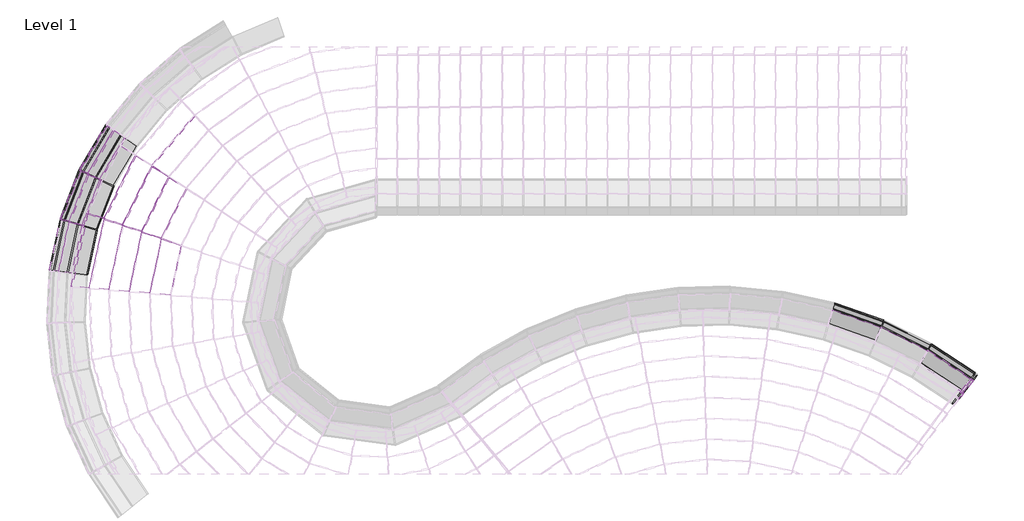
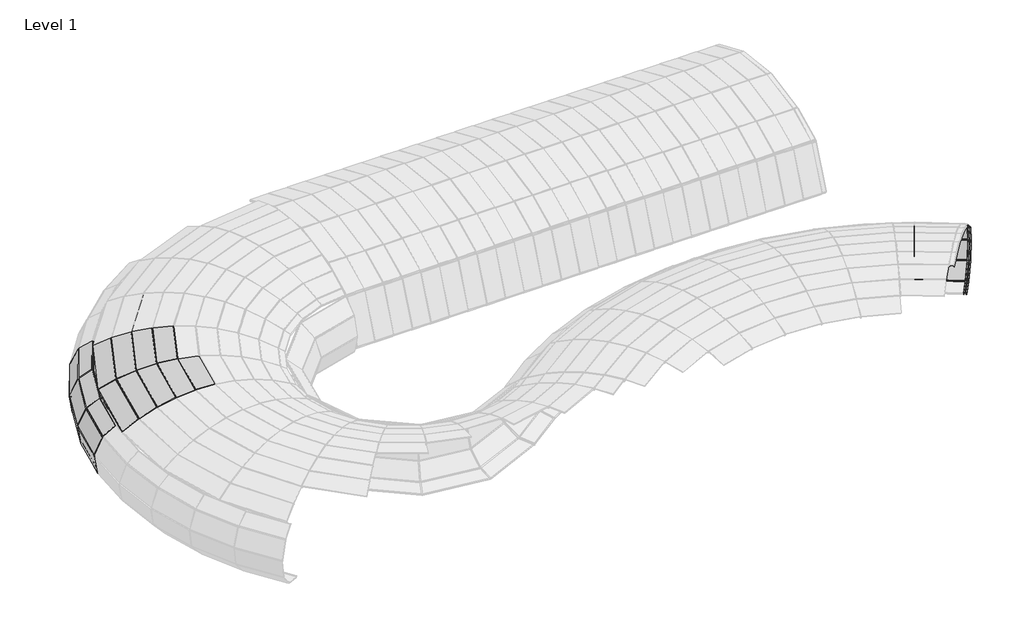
# One storey, part 13 of 23: 67 members, 33 plates.
"""IFC4 building model written with IfcOpenShell, lengths in millimetres."""

from ifc_helpers import new_model, si_unit, origin, place, context, project, spatial, transform, mapped, element, save
from components import member_d6b8231b, member_8c9da58c, member_391bee44, member_01ebdf2a, member_0cd36c09, member_e4cc2466, member_9f5a8508, member_b171f0c8, member_040a25f9, member_07455e61, member_515abc7c, member_e80ec650, member_68ba998a, member_6834bcaf, member_d79d2994, member_03fc4885, member_b79de73f, member_10df8ec0, member_13f17b54, member_c7dbaffb, member_95f517b8, member_6c4aaba8, member_0ea93e7c, member_01d9c279, member_12c77cbe, member_af15374c, member_9c203333, member_86c07ba8, member_0e8a41c0, member_f532ae18, member_ff5bcfe9, member_5080b2ef, member_e0eebeff, system_panel_glazed_e5225984, system_panel_glazed_94c3709e, system_panel_glazed_130e820a, system_panel_glazed_21f41b6b, system_panel_glazed_ba7116ad, system_panel_glazed_a6d149b5, system_panel_glazed_185472ef, system_panel_glazed_d90a1b68, system_panel_glazed_7d733e69, system_panel_glazed_1f33159c, system_panel_glazed_020edd5b, system_panel_glazed_973a940c, system_panel_glazed_7e9fb579, system_panel_glazed_aab04364, system_panel_glazed_9094d4f4

model = new_model("IFC4")

# Units and contexts
model_context = context("Model", 3, world=origin())
ifc_project = project(units=[si_unit("LENGTHUNIT", "METRE", prefix="MILLI")], contexts=[model_context])

# Site, building, storey
site = spatial("IfcSite", under=ifc_project)
building = spatial("IfcBuilding", under=site)
storey = spatial("IfcBuildingStorey", under=building, Name="Level 1", Elevation=0.0)

# Members
placement = place(None, origin())
member_shape = member_d6b8231b(model_context)
element("IfcMember", 1, ObjectType="Rectangular Mullion : 1\" Square", at=placement, inside=storey, context=model_context, shape_type="MappedRepresentation", body=[
    mapped(member_shape, transform((-18019.9786679, 1065.5748234, 0.0), x_axis=(-0.2851545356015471, -0.9584815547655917, 0.0), y_axis=(-0.26866015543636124, 0.07992815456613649, -0.9599131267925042), z_axis=(0.9200590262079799, -0.27372358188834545, -0.2802976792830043))),
])
element("IfcMember", 2, ObjectType="Rectangular Mullion : 1\" Square", at=placement, inside=storey, context=model_context, shape_type="MappedRepresentation", body=[
    mapped(member_shape, transform((-17531.4233882, 2327.9167311, 0.0), x_axis=(-0.4343992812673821, -0.9007204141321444, 0.0), y_axis=(-0.25246984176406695, 0.12176111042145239, -0.9599131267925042), z_axis=(0.864613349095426, -0.4169855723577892, -0.2802976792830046))),
])
member_2_shape = member_8c9da58c(model_context)
element("IfcMember", 3, ObjectType="Rectangular Mullion : 1\" Square", at=placement, inside=storey, context=model_context, shape_type="MappedRepresentation", body=[
    mapped(member_2_shape, transform((-18058.4916858, 2582.1111361, 170.8694653), x_axis=(-0.43439928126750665, -0.9007204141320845, 0.0), y_axis=(-0.6780665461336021, 0.3270178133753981, -0.6582439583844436), z_axis=(0.5928937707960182, -0.2859407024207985, -0.7528046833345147))),
])
element("IfcMember", 4, ObjectType="Rectangular Mullion : 1\" Square", at=placement, inside=storey, context=model_context, shape_type="MappedRepresentation", body=[
    mapped(member_2_shape, transform((-18419.9197285, 2756.4205883, 629.7792003), x_axis=(-0.434399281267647, -0.9007204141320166, 0.0), y_axis=(-0.8905692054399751, 0.42950355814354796, -0.14971033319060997), z_axis=(0.13484715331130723, -0.06503406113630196, -0.9887299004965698))),
])
element("IfcMember", 5, ObjectType="Rectangular Mullion : 1\" Square", at=placement, inside=storey, context=model_context, shape_type="MappedRepresentation", body=[
    mapped(member_2_shape, transform((-18580.8466503, 1232.4367189, 170.8694653), x_axis=(-0.2851545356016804, -0.9584815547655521, 0.0), y_axis=(-0.7215494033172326, 0.21466566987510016, -0.6582439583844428), z_axis=(0.6309146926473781, -0.18770125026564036, -0.7528046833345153))),
])
element("IfcMember", 6, ObjectType="Rectangular Mullion : 1\" Square", at=placement, inside=storey, context=model_context, shape_type="MappedRepresentation", body=[
    mapped(member_2_shape, transform((-18965.4522469, 1346.859401, 629.7792003), x_axis=(-0.2851545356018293, -0.9584815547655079, 0.0), y_axis=(-0.9476793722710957, 0.28194081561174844, -0.14971033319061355), z_axis=(0.14349459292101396, -0.04269058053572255, -0.9887299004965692))),
])
member_3_shape = member_391bee44(model_context)
element("IfcMember", 7, ObjectType="Rectangular Mullion : 1\" Square", at=placement, inside=storey, context=model_context, shape_type="MappedRepresentation", body=[
    mapped(member_3_shape, transform((-18502.1225531, 2796.0653519, 1232.5089476), x_axis=(-0.43439928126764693, -0.9007204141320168, 0.0), y_axis=(-0.8231952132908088, 0.39701044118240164, 0.40587233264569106), z_axis=(-0.3655774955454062, 0.1763106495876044, -0.9139297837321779))),
])
element("IfcMember", 8, ObjectType="Rectangular Mullion : 1\" Square", at=placement, inside=storey, context=model_context, shape_type="MappedRepresentation", body=[
    mapped(member_3_shape, transform((-19052.9265508, 1372.8835789, 1232.5089476), x_axis=(-0.2851545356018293, -0.9584815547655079, 0.0), y_axis=(-0.8759848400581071, 0.26061122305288, 0.40587233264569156), z_axis=(-0.3890211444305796, 0.11573633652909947, -0.9139297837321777))),
])
member_4_shape = member_01ebdf2a(model_context)
element("IfcMember", 9, ObjectType="Rectangular Mullion : 1\" Square", at=placement, inside=storey, context=model_context, shape_type="MappedRepresentation", body=[
    mapped(member_4_shape, transform((-18279.2665119, 2688.5863799, 1789.6405438), x_axis=(-0.4343992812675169, -0.9007204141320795, 0.0), y_axis=(-0.5367032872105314, 0.258841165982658, 0.8030883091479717), z_axis=(-0.7233580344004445, 0.3488609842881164, -0.5958600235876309))),
])
element("IfcMember", 10, ObjectType="Rectangular Mullion : 1\" Square", at=placement, inside=storey, context=model_context, shape_type="MappedRepresentation", body=[
    mapped(member_4_shape, transform((-18815.7792611, 1302.3307082, 1789.6405438), x_axis=(-0.28515453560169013, -0.9584815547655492, 0.0), y_axis=(-0.5711208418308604, 0.16991218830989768, 0.8030883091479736), z_axis=(-0.76974533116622, 0.2290042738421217, -0.5958600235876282))),
])
member_5_shape = member_0cd36c09(model_context)
element("IfcMember", 11, ObjectType="Rectangular Mullion : 1\" Square", at=placement, inside=storey, context=model_context, shape_type="MappedRepresentation", body=[
    mapped(member_5_shape, transform((-16425.6154359, 2926.3073821, 2605.3528615), x_axis=(-0.5485388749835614, -0.83612505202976, 0.0), y_axis=(-0.2167452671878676, 0.14219548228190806, 0.965816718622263), z_axis=(-0.8075435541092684, 0.5297880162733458, -0.2592258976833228))),
])
element("IfcMember", 12, ObjectType="Rectangular Mullion : 1\" Square", at=placement, inside=storey, context=model_context, shape_type="MappedRepresentation", body=[
    mapped(member_5_shape, transform((-17808.6545746, 1385.2734297, 2378.3537392), x_axis=(-0.32694640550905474, -0.9450428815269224, 0.0), y_axis=(-0.35190929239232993, 0.12174630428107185, 0.9280828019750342), z_axis=(-0.8770780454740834, 0.3034333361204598, -0.37237388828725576))),
])
element("IfcMember", 13, ObjectType="Rectangular Mullion : 1\" Square", at=placement, inside=storey, context=model_context, shape_type="MappedRepresentation", body=[
    mapped(member_5_shape, transform((-17273.9877981, 1200.300468, 2605.3528615), x_axis=(-0.32694640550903, -0.9450428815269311, 0.0), y_axis=(-0.2449795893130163, 0.08475297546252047, 0.9658167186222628), z_axis=(-0.9127382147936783, 0.31577030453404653, -0.2592258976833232))),
])
element("IfcMember", 14, ObjectType="Rectangular Mullion : 1\" Square", at=placement, inside=storey, context=model_context, shape_type="MappedRepresentation", body=[
    mapped(member_5_shape, transform((-16717.5825824, 1007.8068903, 2763.3769688), x_axis=(-0.32694640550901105, -0.9450428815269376, 0.0), y_axis=(-0.13456472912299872, 0.046553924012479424, 0.9898106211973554), z_axis=(-0.9354134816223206, 0.3236150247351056, -0.1423900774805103))),
])
element("IfcMember", 15, ObjectType="Rectangular Mullion : 1\" Square", at=placement, inside=storey, context=model_context, shape_type="MappedRepresentation", body=[
    mapped(member_5_shape, transform((-16147.354524, 810.5311712, 2850.17796), x_axis=(-0.32694640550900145, -0.9450428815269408, 0.0), y_axis=(-0.02223550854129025, 0.007692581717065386, 0.9997231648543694), z_axis=(-0.9447812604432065, 0.3268558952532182, -0.023528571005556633))),
])
member_6_shape = member_e4cc2466(model_context)
element("IfcMember", 16, ObjectType="Rectangular Mullion : 1\" Square", at=placement, inside=storey, context=model_context, shape_type="MappedRepresentation", body=[
    mapped(member_6_shape, transform((-18313.9765733, 1560.0942916, 2085.6089632), x_axis=(-0.32694640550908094, -0.9450428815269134, 0.0), y_axis=(-0.45383262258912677, 0.15700763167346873, 0.8771456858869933), z_axis=(-0.8289402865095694, 0.286779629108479, -0.4802243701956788))),
])
member_7_shape = member_9f5a8508(model_context)
element("IfcMember", 17, ObjectType="Rectangular Mullion : 1\" Square", at=placement, inside=storey, context=model_context, shape_type="MappedRepresentation", body=[
    mapped(member_7_shape, transform((7104.8271697, -3677.2258429, 2085.6089632), x_axis=(0.5145511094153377, 0.6881011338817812, -0.5116189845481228), y_axis=(0.3063900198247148, 0.4097305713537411, 0.8592124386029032), z_axis=(0.8008509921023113, -0.5988636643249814, 0.0))),
])
element("IfcMember", 18, ObjectType="Rectangular Mullion : 1\" Square", at=placement, inside=storey, context=model_context, shape_type="MappedRepresentation", body=[
    mapped(member_2_shape, transform((4736.9010134, -1768.9813096, 1696.6281859), x_axis=(0.9208466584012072, -0.3899249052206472, 0.0), y_axis=(0.37127065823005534, 0.8767927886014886, 0.3056018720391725), z_axis=(-0.11916178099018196, -0.28141246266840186, 0.9521593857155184))),
])
element("IfcMember", 19, ObjectType="Rectangular Mullion : 1\" Square", at=placement, inside=storey, context=model_context, shape_type="MappedRepresentation", body=[
    mapped(member_2_shape, transform((4809.5420351, -1597.4322723, 1116.1918244), x_axis=(0.9208466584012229, -0.3899249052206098, 0.0), y_axis=(0.377055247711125, 0.8904536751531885, -0.2547971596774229), z_axis=(0.09935175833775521, 0.23462911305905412, 0.9669945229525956))),
])
element("IfcMember", 20, ObjectType="Rectangular Mullion : 1\" Square", at=placement, inside=storey, context=model_context, shape_type="MappedRepresentation", body=[
    mapped(member_2_shape, transform((6083.771243, -2438.4441663, 1696.6281859), x_axis=(0.8668133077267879, -0.49863282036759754, 0.0), y_axis=(0.47477791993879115, 0.8253444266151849, 0.3056018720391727), z_axis=(-0.15238312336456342, -0.2648997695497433, 0.9521593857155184))),
])
element("IfcMember", 21, ObjectType="Rectangular Mullion : 1\" Square", at=placement, inside=storey, context=model_context, shape_type="MappedRepresentation", body=[
    mapped(member_2_shape, transform((6176.663995, -2276.9612668, 1116.1918244), x_axis=(0.8668133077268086, -0.4986328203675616, 0.0), y_axis=(0.4821752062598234, 0.8382037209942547, -0.2547971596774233), z_axis=(0.12705022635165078, 0.22086156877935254, 0.9669945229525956))),
])
element("IfcMember", 22, ObjectType="Rectangular Mullion : 1\" Square", at=placement, inside=storey, context=model_context, shape_type="MappedRepresentation", body=[
    mapped(member_2_shape, transform((7339.5967163, -3266.1774039, 1696.6281859), x_axis=(0.8000057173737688, -0.5999923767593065, 0.0), y_axis=(0.5712883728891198, 0.761732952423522, 0.30560187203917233), z_axis=(-0.1833587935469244, -0.2444832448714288, 0.9521593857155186))),
])
element("IfcMember", 23, ObjectType="Rectangular Mullion : 1\" Square", at=placement, inside=storey, context=model_context, shape_type="MappedRepresentation", body=[
    mapped(member_2_shape, transform((7451.3722368, -3117.1404178, 1116.1918244), x_axis=(0.8000057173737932, -0.599992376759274, 0.0), y_axis=(0.5801893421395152, 0.7736011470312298, -0.25479715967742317), z_axis=(0.15287635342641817, 0.2038391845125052, 0.9669945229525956))),
])
element("IfcMember", 24, ObjectType="Rectangular Mullion : 1\" Square", at=placement, inside=storey, context=model_context, shape_type="MappedRepresentation", body=[
    mapped(member_3_shape, transform((4748.9772033, -1740.4621796, 526.7119632), x_axis=(0.9208466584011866, -0.38992490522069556, 0.0), y_axis=(0.26434375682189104, 0.6242742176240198, -0.7351218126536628), z_axis=(0.28664230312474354, 0.676934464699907, 0.6779350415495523))),
])
element("IfcMember", 25, ObjectType="Rectangular Mullion : 1\" Square", at=placement, inside=storey, context=model_context, shape_type="MappedRepresentation", body=[
    mapped(member_3_shape, transform((6099.214177, -2411.5984791, 526.7119632), x_axis=(0.8668133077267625, -0.49863282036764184, 0.0), y_axis=(0.33804066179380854, 0.587643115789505, -0.7351218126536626), z_axis=(0.3665558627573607, 0.6372133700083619, 0.6779350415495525))),
])
element("IfcMember", 26, ObjectType="Rectangular Mullion : 1\" Square", at=placement, inside=storey, context=model_context, shape_type="MappedRepresentation", body=[
    mapped(member_3_shape, transform((7358.1788118, -3241.4007847, 526.7119632), x_axis=(0.8000057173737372, -0.5999923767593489, 0.0), y_axis=(0.4067558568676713, 0.5423519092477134, -0.7351218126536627), z_axis=(0.44106748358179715, 0.5881016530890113, 0.6779350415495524))),
])
element("IfcMember", 27, ObjectType="Rectangular Mullion : 1\" Square", at=placement, inside=storey, context=model_context, shape_type="MappedRepresentation", body=[
    mapped(member_4_shape, transform((7089.3040738, -3599.9075524, 113.4427618), x_axis=(0.800005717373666, -0.5999923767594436, 0.0), y_axis=(0.13703181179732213, 0.18271270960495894, -0.9735698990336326), z_axis=(0.5841345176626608, 0.7788614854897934, 0.2283892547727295))),
])
element("IfcMember", 28, ObjectType="Rectangular Mullion : 1\" Square", at=placement, inside=storey, context=model_context, shape_type="MappedRepresentation", body=[
    mapped(member_shape, transform((7057.9796251, -3641.6743132, 2085.6089632), x_axis=(0.8000057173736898, -0.5999923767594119, 0.0), y_axis=(0.38285023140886, 0.5104771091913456, 0.7699602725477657), z_axis=(-0.4619702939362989, -0.6159726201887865, 0.6380918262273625))),
])
member_8_shape = member_b171f0c8(model_context)
element("IfcMember", 29, ObjectType="Rectangular Mullion : 1\" Square", at=placement, inside=storey, context=model_context, shape_type="MappedRepresentation", body=[
    mapped(member_8_shape, transform((6165.2913851, -2271.3085025, 1116.1918244), x_axis=(0.011808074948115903, 0.023756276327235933, -0.9996480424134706), y_axis=(0.4449428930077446, 0.8951659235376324, 0.026529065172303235), z_axis=(0.8954810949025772, -0.44509954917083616, 0.0))),
])
element("IfcMember", 30, ObjectType="Rectangular Mullion : 1\" Square", at=placement, inside=storey, context=model_context, shape_type="MappedRepresentation", body=[
    mapped(member_8_shape, transform((7440.7683843, -3110.151261, 1116.1918244), x_axis=(0.014599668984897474, 0.02215041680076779, -0.9996480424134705), y_axis=(0.5501336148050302, 0.834655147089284, 0.02652906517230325), z_axis=(0.8349490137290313, -0.5503273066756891, 0.0))),
])
element("IfcMember", 31, ObjectType="Rectangular Mullion : 1\" Square", at=placement, inside=storey, context=model_context, shape_type="MappedRepresentation", body=[
    mapped(member_8_shape, transform((4797.5682661, -1593.1992054, 1116.1918244), x_axis=(0.008842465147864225, 0.025012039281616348, -0.9996480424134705), y_axis=(0.33319504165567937, 0.9424846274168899, 0.02652906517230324), z_axis=(0.9428164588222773, -0.33331235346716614, 0.0))),
])
member_9_shape = member_040a25f9(model_context)
element("IfcMember", 32, ObjectType="Rectangular Mullion : 1\" Square", at=placement, inside=storey, context=model_context, shape_type="MappedRepresentation", body=[
    mapped(member_9_shape, transform((7501.9908279, -3155.3837101, 1116.1918244), x_axis=(0.015953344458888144, 0.021115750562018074, -0.9996497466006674), y_axis=(0.6026032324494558, 0.7976020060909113, 0.026464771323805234), z_axis=(0.7978814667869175, -0.6028143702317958, 0.0))),
])
member_10_shape = member_07455e61(model_context)
element("IfcMember", 33, ObjectType="Rectangular Mullion : 1\" Square", at=placement, inside=storey, context=model_context, shape_type="MappedRepresentation", body=[
    mapped(member_10_shape, transform((4737.0034342, -1736.2291128, 526.7119632), x_axis=(-0.17219439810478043, -0.48707379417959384, -0.8562173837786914), y_axis=(0.28538783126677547, 0.8072558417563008, -0.516615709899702), z_axis=(0.9428164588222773, -0.33331235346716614, 0.0))),
])
element("IfcMember", 34, ObjectType="Rectangular Mullion : 1\" Square", at=placement, inside=storey, context=model_context, shape_type="MappedRepresentation", body=[
    mapped(member_10_shape, transform((6087.8415671, -2405.9457149, 526.7119632), x_axis=(-0.2299454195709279, -0.4626196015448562, -0.8562173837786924), y_axis=(0.38110197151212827, 0.7667264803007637, -0.5166157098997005), z_axis=(0.8954810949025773, -0.44509954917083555, 0.0))),
])
element("IfcMember", 35, ObjectType="Rectangular Mullion : 1\" Square", at=placement, inside=storey, context=model_context, shape_type="MappedRepresentation", body=[
    mapped(member_10_shape, transform((7347.5749593, -3234.4116279, 526.7119632), x_axis=(-0.28430773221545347, -0.43134777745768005, -0.8562173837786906), y_axis=(0.4711998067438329, 0.7148978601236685, -0.5166157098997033), z_axis=(0.8349490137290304, -0.5503273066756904, 0.0))),
])
member_11_shape = member_515abc7c(model_context)
element("IfcMember", 36, ObjectType="Rectangular Mullion : 1\" Square", at=placement, inside=storey, context=model_context, shape_type="MappedRepresentation", body=[
    mapped(member_11_shape, transform((7328.9928638, -3259.1882471, 1696.6281859), x_axis=(0.308871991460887, 0.46861633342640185, -0.8276453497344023), y_axis=(0.45547583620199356, 0.6910416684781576, 0.5612514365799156), z_axis=(0.8349490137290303, -0.5503273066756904, 0.0))),
])
element("IfcMember", 37, ObjectType="Rectangular Mullion : 1\" Square", at=placement, inside=storey, context=model_context, shape_type="MappedRepresentation", body=[
    mapped(member_11_shape, transform((4724.9272444, -1764.7482427, 1696.6281859), x_axis=(0.18707203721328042, 0.5291570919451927, -0.8276453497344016), y_axis=(0.27586441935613, 0.7803176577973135, 0.5612514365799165), z_axis=(0.9428164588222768, -0.33331235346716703, 0.0))),
])
element("IfcMember", 38, ObjectType="Rectangular Mullion : 1\" Square", at=placement, inside=storey, context=model_context, shape_type="MappedRepresentation", body=[
    mapped(member_11_shape, transform((6072.3986331, -2432.7914021, 1696.6281859), x_axis=(0.2498127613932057, 0.5025900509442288, -0.8276453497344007), y_axis=(0.3683845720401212, 0.7411407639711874, 0.5612514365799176), z_axis=(0.895481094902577, -0.44509954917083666, 0.0))),
])
member_12_shape = member_e80ec650(model_context)
element("IfcMember", 39, ObjectType="Rectangular Mullion : 1\" Square", at=placement, inside=storey, context=model_context, shape_type="MappedRepresentation", body=[
    mapped(member_12_shape, transform((7389.1652625, -3303.6273676, 1696.6281859), x_axis=(0.33773694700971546, 0.4470265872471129, -0.8283121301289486), y_axis=(0.4993184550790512, 0.6608948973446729, 0.5602669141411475), z_axis=(0.797881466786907, -0.6028143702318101, 0.0))),
])
member_13_shape = member_68ba998a(model_context)
element("IfcMember", 40, ObjectType="Rectangular Mullion : 1\" Square", at=placement, inside=storey, context=model_context, shape_type="MappedRepresentation", body=[
    mapped(member_13_shape, transform((7407.9219225, -3278.9826351, 526.7119632), x_axis=(-0.3108447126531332, -0.4114321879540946, -0.8567958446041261), y_axis=(0.5164888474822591, 0.6836215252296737, -0.5156557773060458), z_axis=(0.7978814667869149, -0.6028143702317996, 0.0))),
])
member_14_shape = member_6834bcaf(model_context)
element("IfcMember", 41, ObjectType="Rectangular Mullion : 1\" Square", at=placement, inside=storey, context=model_context, shape_type="MappedRepresentation", body=[
    mapped(member_14_shape, transform((7078.7002213, -3592.9183956, 113.4427618), x_axis=(-0.4932424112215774, -0.7483405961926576, -0.44350679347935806), y_axis=(0.24407389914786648, 0.370305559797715, -0.8962710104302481), z_axis=(0.834949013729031, -0.5503273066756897, 0.0))),
])
member_15_shape = member_d79d2994(model_context)
element("IfcMember", 42, ObjectType="Rectangular Mullion : 1\" Square", at=placement, inside=storey, context=model_context, shape_type="MappedRepresentation", body=[
    mapped(member_15_shape, transform((7136.5213134, -3635.5810601, 113.4427618), x_axis=(-0.5399407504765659, -0.714662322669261, -0.4446591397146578), y_axis=(0.268046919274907, 0.3547852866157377, -0.8956998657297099), z_axis=(0.7978814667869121, -0.6028143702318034, 0.0))),
])
member_16_shape = member_03fc4885(model_context)
element("IfcMember", 43, ObjectType="Rectangular Mullion : 1\" Square", at=placement, inside=storey, context=model_context, shape_type="MappedRepresentation", body=[
    mapped(member_16_shape, transform((7409.4314517, -3318.9388526, 1696.6281859), x_axis=(0.7976821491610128, -0.603077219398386, 0.0010277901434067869), y_axis=(0.5739756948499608, 0.7597107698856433, 0.3056001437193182), z_axis=(-0.185081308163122, -0.24318185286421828, 0.9521593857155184))),
])
member_17_shape = member_b79de73f(model_context)
element("IfcMember", 44, ObjectType="Rectangular Mullion : 1\" Square", at=placement, inside=storey, context=model_context, shape_type="MappedRepresentation", body=[
    mapped(member_17_shape, transform((7522.2570172, -3170.6951951, 1116.1918244), x_axis=(0.797742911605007, -0.6029970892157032, -0.0008702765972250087), y_axis=(0.5829184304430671, 0.7715473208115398, -0.25479567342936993), z_axis=(0.1543125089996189, 0.20275414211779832, 0.9669945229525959))),
])
member_18_shape = member_10df8ec0(model_context)
element("IfcMember", 45, ObjectType="Rectangular Mullion : 1\" Square", at=placement, inside=storey, context=model_context, shape_type="MappedRepresentation", body=[
    mapped(member_18_shape, transform((7428.1881117, -3294.2941201, 526.7119632), x_axis=(0.7967281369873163, -0.6043353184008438, -0.0017603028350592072), y_axis=(0.40867036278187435, 0.5409136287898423, -0.7351197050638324), z_axis=(0.4452109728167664, 0.584971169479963, 0.6779350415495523))),
])
member_19_shape = member_13f17b54(model_context)
element("IfcMember", 46, ObjectType="Rectangular Mullion : 1\" Square", at=placement, inside=storey, context=model_context, shape_type="MappedRepresentation", body=[
    mapped(member_19_shape, transform((7156.7875027, -3650.8925451, 113.4427618), x_axis=(0.7958585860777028, -0.6054820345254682, -0.0007853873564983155), y_axis=(0.13767713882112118, 0.18222863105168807, -0.9735695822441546), z_axis=(0.5896220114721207, 0.7747155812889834, 0.22838925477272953))),
])
member_20_shape = member_c7dbaffb(model_context)
element("IfcMember", 47, ObjectType="Rectangular Mullion : 1\" Square", at=placement, inside=storey, context=model_context, shape_type="MappedRepresentation", body=[
    mapped(member_20_shape, transform((7068.1127197, -3649.3300557, 2085.6089632), x_axis=(-0.4641419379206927, -0.61433547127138, 0.6380941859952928), y_axis=(0.38465234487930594, 0.5091235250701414, 0.7699583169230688), z_axis=(-0.7978814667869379, 0.6028143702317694, 0.0))),
])
member_21_shape = member_95f517b8(model_context)
element("IfcMember", 48, ObjectType="Rectangular Mullion : 1\" Square", at=placement, inside=storey, context=model_context, shape_type="MappedRepresentation", body=[
    mapped(member_21_shape, transform((7125.1687849, -3692.43698, 2085.6089632), x_axis=(0.7966162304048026, -0.6044828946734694, 0.0017353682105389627), y_axis=(0.384652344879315, 0.5091235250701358, 0.7699583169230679), z_axis=(-0.46631014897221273, -0.6126937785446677, 0.6380918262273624))),
])
member_22_shape = member_6c4aaba8(model_context)
element("IfcMember", 49, ObjectType="Rectangular Mullion : 1\" Square", at=placement, inside=storey, context=model_context, shape_type="MappedRepresentation", body=[
    mapped(member_22_shape, transform((-17803.0523861, 1396.6710383, 2378.3537392), x_axis=(0.8127024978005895, -0.3994620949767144, 0.4241988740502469), y_axis=(-0.38069706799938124, 0.1871214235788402, 0.9055690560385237), z_axis=(-0.4411172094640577, -0.897449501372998, 0.0))),
])
member_23_shape = member_0ea93e7c(model_context)
element("IfcMember", 50, ObjectType="Rectangular Mullion : 1\" Square", at=placement, inside=storey, context=model_context, shape_type="MappedRepresentation", body=[
    mapped(member_23_shape, transform((-16711.9803938, 1019.204499, 2763.3769688), x_axis=(0.8794198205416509, -0.43225520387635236, 0.19943976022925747), y_axis=(-0.17898711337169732, 0.0879763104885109, 0.9799100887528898), z_axis=(-0.44111720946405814, -0.8974495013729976, 0.0))),
])
member_24_shape = member_01d9c279(model_context)
element("IfcMember", 51, ObjectType="Rectangular Mullion : 1\" Square", at=placement, inside=storey, context=model_context, shape_type="MappedRepresentation", body=[
    mapped(member_24_shape, transform((-16141.7523354, 821.9287799, 2850.17796), x_axis=(0.8944127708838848, -0.43962458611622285, 0.08219500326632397), y_axis=(-0.0737658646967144, 0.03625763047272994, 0.9966162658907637), z_axis=(-0.44111720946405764, -0.897449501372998, 0.0))),
])
member_25_shape = member_12c77cbe(model_context)
element("IfcMember", 52, ObjectType="Rectangular Mullion : 1\" Square", at=placement, inside=storey, context=model_context, shape_type="MappedRepresentation", body=[
    mapped(member_25_shape, transform((-16417.3913243, 2935.9848812, 2605.3528615), x_axis=(0.7234762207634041, -0.6148230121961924, 0.31396627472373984), y_axis=(-0.23924475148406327, 0.2033144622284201, 0.9494341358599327), z_axis=(-0.6475678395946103, -0.7620078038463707, 0.0))),
])
element("IfcMember", 53, ObjectType="Rectangular Mullion : 1\" Square", at=placement, inside=storey, context=model_context, shape_type="MappedRepresentation", body=[
    mapped(member_25_shape, transform((-17268.3856096, 1211.6980766, 2605.3528615), x_axis=(0.852069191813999, -0.4188117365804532, 0.31396627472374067), y_axis=(-0.2817688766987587, 0.13849592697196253, 0.9494341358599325), z_axis=(-0.44111720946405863, -0.8974495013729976, 0.0))),
])
member_26_shape = member_af15374c(model_context)
element("IfcMember", 54, ObjectType="Rectangular Mullion : 1\" Square", at=placement, inside=storey, context=model_context, shape_type="MappedRepresentation", body=[
    mapped(member_26_shape, transform((-18316.6152941, 1547.6714435, 2085.6089632), x_axis=(-0.8564765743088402, 0.18192305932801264, -0.4830650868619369), y_axis=(-0.47252316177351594, 0.10036802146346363, 0.8755844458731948), z_axis=(0.20777328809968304, 0.9781770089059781, 0.0))),
])
member_27_shape = member_9c203333(model_context)
element("IfcMember", 55, ObjectType="Rectangular Mullion : 1\" Square", at=placement, inside=storey, context=model_context, shape_type="MappedRepresentation", body=[
    mapped(member_27_shape, transform((-17536.0072528, 2316.0728219, 0.0), x_axis=(0.8949800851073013, -0.3463778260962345, -0.2811281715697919), y_axis=(-0.26217768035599, 0.10146877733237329, -0.9596702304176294), z_axis=(0.36093422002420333, 0.9325912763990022, 0.0))),
])
element("IfcMember", 56, ObjectType="Rectangular Mullion : 1\" Square", at=placement, inside=storey, context=model_context, shape_type="MappedRepresentation", body=[
    mapped(member_27_shape, transform((-18022.6145046, 1053.1513631, 0.0), x_axis=(0.938773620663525, -0.1991759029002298, -0.28112817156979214), y_axis=(-0.2750066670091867, 0.058347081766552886, -0.9596702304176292), z_axis=(0.20754619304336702, 0.9782252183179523, 0.0))),
])
member_28_shape = member_86c07ba8(model_context)
element("IfcMember", 57, ObjectType="Rectangular Mullion : 1\" Square", at=placement, inside=storey, context=model_context, shape_type="MappedRepresentation", body=[
    mapped(member_28_shape, transform((-18052.0771876, 2593.0721676, 170.8694653), x_axis=(-0.7284687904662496, 0.42630674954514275, 0.5362795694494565), y_axis=(-0.46284860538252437, 0.270863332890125, -0.8440404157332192), z_axis=(-0.5050785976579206, -0.8630733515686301, 0.0))),
])
element("IfcMember", 58, ObjectType="Rectangular Mullion : 1\" Square", at=placement, inside=storey, context=model_context, shape_type="MappedRepresentation", body=[
    mapped(member_28_shape, transform((-18576.2627857, 1244.2806281, 170.8694653), x_axis=(-0.7871447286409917, 0.30464306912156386, 0.5362795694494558), y_axis=(-0.5001296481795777, 0.19356164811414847, -0.8440404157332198), z_axis=(-0.36093422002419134, -0.9325912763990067, 0.0))),
])
member_29_shape = member_0e8a41c0(model_context)
element("IfcMember", 59, ObjectType="Rectangular Mullion : 1\" Square", at=placement, inside=storey, context=model_context, shape_type="MappedRepresentation", body=[
    mapped(member_29_shape, transform((-18413.5052303, 2767.3816198, 629.7792003), x_axis=(-0.36445706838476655, 0.2132836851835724, 0.9064662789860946), y_axis=(-0.7823468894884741, 0.45783671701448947, -0.42227820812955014), z_axis=(-0.5050785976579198, -0.8630733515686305, 0.0))),
])
element("IfcMember", 60, ObjectType="Rectangular Mullion : 1\" Square", at=placement, inside=storey, context=model_context, shape_type="MappedRepresentation", body=[
    mapped(member_29_shape, transform((-18960.8683823, 1358.7033102, 629.7792003), x_axis=(-0.3938129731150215, 0.1524146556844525, 0.9064662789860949), y_axis=(-0.8453625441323, 0.32717469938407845, -0.4222782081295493), z_axis=(-0.36093422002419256, -0.9325912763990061, 0.0))),
])
member_30_shape = member_f532ae18(model_context)
element("IfcMember", 61, ObjectType="Rectangular Mullion : 1\" Square", at=placement, inside=storey, context=model_context, shape_type="MappedRepresentation", body=[
    mapped(member_30_shape, transform((-18495.708055, 2807.0263835, 1232.5089476), x_axis=(0.11561769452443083, -0.06766055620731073, 0.9909866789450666), y_axis=(-0.8552941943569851, 0.5005261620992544, 0.13396044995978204), z_axis=(-0.5050785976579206, -0.8630733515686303, 0.0))),
])
element("IfcMember", 62, ObjectType="Rectangular Mullion : 1\" Square", at=placement, inside=storey, context=model_context, shape_type="MappedRepresentation", body=[
    mapped(member_30_shape, transform((-19048.3426862, 1384.7274881, 1232.5089476), x_axis=(0.12493034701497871, -0.04835091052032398, 0.9909866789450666), y_axis=(-0.9241855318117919, 0.3576810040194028, 0.13396044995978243), z_axis=(-0.3609342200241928, -0.9325912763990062, 0.0))),
])
member_31_shape = member_ff5bcfe9(model_context)
element("IfcMember", 63, ObjectType="Rectangular Mullion : 1\" Square", at=placement, inside=storey, context=model_context, shape_type="MappedRepresentation", body=[
    mapped(member_31_shape, transform((-18272.8520137, 2699.5474115, 1789.6405438), x_axis=(0.5587528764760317, -0.3269874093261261, 0.7621512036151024), y_axis=(-0.657792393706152, 0.38494626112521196, 0.6473990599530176), z_axis=(-0.5050785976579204, -0.8630733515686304, 0.0))),
])
element("IfcMember", 64, ObjectType="Rectangular Mullion : 1\" Square", at=placement, inside=storey, context=model_context, shape_type="MappedRepresentation", body=[
    mapped(member_31_shape, transform((-18811.1953965, 1314.1746174, 1789.6405438), x_axis=(0.6037587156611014, -0.23366847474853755, 0.7621512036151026), y_axis=(-0.7107755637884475, 0.2750864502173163, 0.6473990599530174), z_axis=(-0.3609342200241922, -0.9325912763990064, 0.0))),
])
member_32_shape = member_5080b2ef(model_context)
element("IfcMember", 65, ObjectType="Rectangular Mullion : 1\" Square", at=placement, inside=storey, context=model_context, shape_type="MappedRepresentation", body=[
    mapped(member_32_shape, transform((-17913.5543169, 2526.2653821, 2085.6089632), x_axis=(0.6923325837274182, -0.4051595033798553, 0.5970941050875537), y_axis=(-0.5153360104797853, 0.3015794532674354, 0.802171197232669), z_axis=(-0.5050785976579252, -0.8630733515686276, 0.0))),
])
element("IfcMember", 66, ObjectType="Rectangular Mullion : 1\" Square", at=placement, inside=storey, context=model_context, shape_type="MappedRepresentation", body=[
    mapped(member_32_shape, transform((-18428.85676, 1200.4263707, 2085.6089632), x_axis=(0.7480978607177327, -0.2895310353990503, 0.597094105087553), y_axis=(-0.5568447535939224, 0.2155116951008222, 0.8021711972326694), z_axis=(-0.36093422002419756, -0.9325912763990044, 0.0))),
])
member_33_shape = member_e0eebeff(model_context)
element("IfcMember", 67, ObjectType="Rectangular Mullion : 1\" Square", at=placement, inside=storey, context=model_context, shape_type="MappedRepresentation", body=[
    mapped(member_33_shape, transform((7000.0174565, -3856.875692, 2208.6526723), x_axis=(0.7970831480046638, -0.6038580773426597, 0.0037252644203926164), y_axis=(0.3063900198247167, 0.4097305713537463, 0.8592124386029), z_axis=(-0.5203687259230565, -0.683722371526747, 0.5116054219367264))),
])

# Plates
system_panel_glazed_shape = system_panel_glazed_e5225984(model_context)
element("IfcPlate", 68, ObjectType="System Panel : Glazed", at=placement, inside=storey, context=model_context, shape_type="MappedRepresentation", body=[
    mapped(system_panel_glazed_shape, transform((4029.1594132, -1514.6649255, 1684.5336808), x_axis=(0.9428164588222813, -0.3333123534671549, 0.0), y_axis=(-0.3174210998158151, -0.8978660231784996, -0.30509088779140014), z_axis=(0.10169056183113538, 0.28764471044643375, -0.9523232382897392))),
])
element("IfcPlate", 69, ObjectType="System Panel : Glazed", at=placement, inside=storey, context=model_context, shape_type="MappedRepresentation", body=[
    mapped(system_panel_glazed_shape, transform((6713.8163077, -2849.0756464, 1684.5336808), x_axis=(0.8349490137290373, -0.5503273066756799, 0.0), y_axis=(-0.5240894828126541, -0.795141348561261, -0.3050908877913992), z_axis=(0.16789984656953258, 0.25473533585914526, -0.9523232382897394))),
])
system_panel_glazed_2_shape = system_panel_glazed_94c3709e(model_context)
element("IfcPlate", 70, ObjectType="System Panel : Glazed", at=placement, inside=storey, context=model_context, shape_type="MappedRepresentation", body=[
    mapped(system_panel_glazed_2_shape, transform((4088.7711303, -1346.0455887, 1103.9095249), x_axis=(0.9428164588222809, -0.3333123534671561, 0.0), y_axis=(-0.3223497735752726, -0.911807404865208, 0.254357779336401), z_axis=(-0.0847805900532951, -0.23981270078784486, -0.9671101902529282))),
])
element("IfcPlate", 71, ObjectType="System Panel : Glazed", at=placement, inside=storey, context=model_context, shape_type="MappedRepresentation", body=[
    mapped(system_panel_glazed_2_shape, transform((5491.6651905, -1940.0894814, 1103.9095249), x_axis=(0.8954810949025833, -0.44509954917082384, 0.0), y_axis=(-0.430460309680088, -0.866028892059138, 0.25435777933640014), z_axis=(-0.11321453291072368, -0.22777258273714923, -0.9671101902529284))),
])
element("IfcPlate", 72, ObjectType="System Panel : Glazed", at=placement, inside=storey, context=model_context, shape_type="MappedRepresentation", body=[
    mapped(system_panel_glazed_2_shape, transform((6812.2403695, -2699.7480147, 1103.9095249), x_axis=(0.8349490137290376, -0.5503273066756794, 0.0), y_axis=(-0.5322271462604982, -0.807487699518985, 0.25435777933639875), z_axis=(-0.1399800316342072, -0.21237577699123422, -0.9671101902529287))),
])
system_panel_glazed_3_shape = system_panel_glazed_130e820a(model_context)
element("IfcPlate", 73, ObjectType="System Panel : Glazed", at=placement, inside=storey, context=model_context, shape_type="MappedRepresentation", body=[
    mapped(system_panel_glazed_3_shape, transform((4035.0625984, -1497.9670139, 518.0936043), x_axis=(0.9428164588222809, -0.3333123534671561, 0.0), y_axis=(-0.22618940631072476, -0.639805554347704, 0.73449792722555), z_axis=(-0.24481723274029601, -0.6924967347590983, -0.6786109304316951))),
])
element("IfcPlate", 74, ObjectType="System Panel : Glazed", at=placement, inside=storey, context=model_context, shape_type="MappedRepresentation", body=[
    mapped(system_panel_glazed_3_shape, transform((6723.5629732, -2834.2881396, 518.0936043), x_axis=(0.8349490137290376, -0.5503273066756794, 0.0), y_axis=(-0.3734581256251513, -0.5666055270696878, 0.7344979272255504), z_axis=(-0.40421426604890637, -0.6132683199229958, -0.6786109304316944))),
])
system_panel_glazed_4_shape = system_panel_glazed_21f41b6b(model_context)
element("IfcPlate", 75, ObjectType="System Panel : Glazed", at=placement, inside=storey, context=model_context, shape_type="MappedRepresentation", body=[
    mapped(system_panel_glazed_4_shape, transform((7382.4890102, -3271.4686058, 518.1021591), x_axis=(0.7978814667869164, -0.6028143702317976, 0.0), y_axis=(-0.4086703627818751, -0.5409136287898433, 0.7351197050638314), z_axis=(-0.44314072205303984, -0.586538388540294, -0.67793732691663))),
])
system_panel_glazed_5_shape = system_panel_glazed_ba7116ad(model_context)
element("IfcPlate", 76, ObjectType="System Panel : Glazed", at=placement, inside=storey, context=model_context, shape_type="MappedRepresentation", body=[
    mapped(system_panel_glazed_5_shape, transform((7110.5258129, -3631.4374276, 110.5422011), x_axis=(0.7978814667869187, -0.6028143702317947, 0.0), y_axis=(-0.13767713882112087, -0.18222863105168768, 0.9735695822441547), z_axis=(-0.586881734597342, -0.7767931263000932, -0.2283906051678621))),
])
system_panel_glazed_6_shape = system_panel_glazed_a6d149b5(model_context)
element("IfcPlate", 77, ObjectType="System Panel : Glazed", at=placement, inside=storey, context=model_context, shape_type="MappedRepresentation", body=[
    mapped(system_panel_glazed_6_shape, transform((-17809.9010003, 2535.2150021, 2097.8788164), x_axis=(-0.441117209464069, -0.8974495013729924, 0.0), y_axis=(0.4335265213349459, -0.21308832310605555, -0.8755844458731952), z_axis=(0.7857928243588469, -0.386235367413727, 0.4830650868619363))),
])
element("IfcPlate", 78, ObjectType="System Panel : Glazed", at=placement, inside=storey, context=model_context, shape_type="MappedRepresentation", body=[
    mapped(system_panel_glazed_6_shape, transform((-18520.2486821, 481.945693, 2097.8788164), x_axis=(-0.20777328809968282, -0.9781770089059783, 0.0), y_axis=(0.4725231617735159, -0.10036802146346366, -0.8755844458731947), z_axis=(0.85647657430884, -0.18192305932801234, 0.48306508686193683))),
])
system_panel_glazed_7_shape = system_panel_glazed_185472ef(model_context)
element("IfcPlate", 79, ObjectType="System Panel : Glazed", at=placement, inside=storey, context=model_context, shape_type="MappedRepresentation", body=[
    mapped(system_panel_glazed_7_shape, transform((-17343.0911654, 2305.7671597, 2383.1142391), x_axis=(-0.44111720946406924, -0.8974495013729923, 0.0), y_axis=(0.3364022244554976, -0.16534948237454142, -0.9270885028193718), z_axis=(0.8320151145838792, -0.4089546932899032, 0.37484251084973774))),
])
element("IfcPlate", 80, ObjectType="System Panel : Glazed", at=placement, inside=storey, context=model_context, shape_type="MappedRepresentation", body=[
    mapped(system_panel_glazed_7_shape, transform((-18011.4483013, 373.8720753, 2383.1142391), x_axis=(-0.20777328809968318, -0.9781770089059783, 0.0), y_axis=(0.3666623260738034, -0.07788226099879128, -0.9270885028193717), z_axis=(0.9068566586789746, -0.19262422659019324, 0.374842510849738))),
])
system_panel_glazed_8_shape = system_panel_glazed_d90a1b68(model_context)
element("IfcPlate", 81, ObjectType="System Panel : Glazed", at=placement, inside=storey, context=model_context, shape_type="MappedRepresentation", body=[
    mapped(system_panel_glazed_8_shape, transform((-16838.799336, 2057.8960492, 2608.668686), x_axis=(-0.4411172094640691, -0.8974495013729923, 0.0), y_axis=(0.2343137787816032, -0.11517064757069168, -0.965314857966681), z_axis=(0.8663213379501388, -0.4258169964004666, 0.2610885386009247))),
])
element("IfcPlate", 82, ObjectType="System Panel : Glazed", at=placement, inside=storey, context=model_context, shape_type="MappedRepresentation", body=[
    mapped(system_panel_glazed_8_shape, transform((-17461.7943403, 257.1208025, 2608.668686), x_axis=(-0.2077732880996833, -0.9781770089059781, 0.0), y_axis=(0.25539080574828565, -0.054247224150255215, -0.965314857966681), z_axis=(0.9442488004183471, -0.20056664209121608, 0.26108853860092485))),
])
system_panel_glazed_9_shape = system_panel_glazed_7d733e69(model_context)
element("IfcPlate", 83, ObjectType="System Panel : Glazed", at=placement, inside=storey, context=model_context, shape_type="MappedRepresentation", body=[
    mapped(system_panel_glazed_9_shape, transform((-16314.1800294, 1800.033513, 2765.1989775), x_axis=(-0.44111720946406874, -0.8974495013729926, 0.0), y_axis=(0.1287528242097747, -0.0632849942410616, -0.9896553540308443), z_axis=(0.8881657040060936, -0.43655400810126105, 0.14346525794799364))),
])
element("IfcPlate", 84, ObjectType="System Panel : Glazed", at=placement, inside=storey, context=model_context, shape_type="MappedRepresentation", body=[
    mapped(system_panel_glazed_9_shape, transform((-16889.9844018, 135.6634078, 2765.1989775), x_axis=(-0.20777328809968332, -0.9781770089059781, 0.0), y_axis=(0.1403344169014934, -0.029808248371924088, -0.9896553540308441), z_axis=(0.968058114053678, -0.20562394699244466, 0.14346525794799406))),
])
system_panel_glazed_10_shape = system_panel_glazed_1f33159c(model_context)
element("IfcPlate", 85, ObjectType="System Panel : Glazed", at=placement, inside=storey, context=model_context, shape_type="MappedRepresentation", body=[
    mapped(system_panel_glazed_10_shape, transform((-16304.1537919, 11.2279008, 2850.4790751), x_axis=(-0.20777328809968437, -0.978177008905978, 0.0), y_axis=(0.023192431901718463, -0.004926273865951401, -0.9997188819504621), z_axis=(0.9779020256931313, -0.20771487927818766, 0.02370985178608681))),
])
system_panel_glazed_11_shape = system_panel_glazed_020edd5b(model_context)
element("IfcPlate", 86, ObjectType="System Panel : Glazed", at=placement, inside=storey, context=model_context, shape_type="MappedRepresentation", body=[
    mapped(system_panel_glazed_11_shape, transform((-17210.6278394, 2924.350068, 7.1406556), x_axis=(-0.5050785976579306, -0.8630733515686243, 0.0), y_axis=(0.24263423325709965, -0.14199182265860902, 0.9596702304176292), z_axis=(-0.8282658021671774, 0.48470889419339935, 0.28112817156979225))),
])
element("IfcPlate", 87, ObjectType="System Panel : Glazed", at=placement, inside=storey, context=model_context, shape_type="MappedRepresentation", body=[
    mapped(system_panel_glazed_11_shape, transform((-17798.4335222, 1705.543774, 7.1406556), x_axis=(-0.3609342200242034, -0.9325912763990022, 0.0), y_axis=(0.2621776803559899, -0.10146877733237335, 0.9596702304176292), z_axis=(-0.8949800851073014, 0.3463778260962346, 0.2811281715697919))),
])
element("IfcPlate", 88, ObjectType="System Panel : Glazed", at=placement, inside=storey, context=model_context, shape_type="MappedRepresentation", body=[
    mapped(system_panel_glazed_11_shape, transform((-18184.2892631, 408.5782193, 7.1406556), x_axis=(-0.2075461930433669, -0.9782252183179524, 0.0), y_axis=(0.2750066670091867, -0.058347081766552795, 0.9596702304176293), z_axis=(-0.9387736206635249, 0.19917590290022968, 0.28112817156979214))),
])
system_panel_glazed_12_shape = system_panel_glazed_973a940c(model_context)
element("IfcPlate", 89, ObjectType="System Panel : Glazed", at=placement, inside=storey, context=model_context, shape_type="MappedRepresentation", body=[
    mapped(system_panel_glazed_12_shape, transform((-17700.2110379, 3210.8587348, 180.4433737), x_axis=(-0.5050785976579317, -0.8630733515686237, 0.0), y_axis=(0.6506287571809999, -0.38075403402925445, 0.6570453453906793), z_axis=(-0.5670783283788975, 0.33185954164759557, 0.7538510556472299))),
])
element("IfcPlate", 90, ObjectType="System Panel : Glazed", at=placement, inside=storey, context=model_context, shape_type="MappedRepresentation", body=[
    mapped(system_panel_glazed_12_shape, transform((-18327.4511535, 1910.2857344, 180.4433737), x_axis=(-0.3609342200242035, -0.9325912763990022, 0.0), y_axis=(0.7030349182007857, -0.2720906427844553, 0.6570453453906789), z_axis=(-0.6127547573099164, 0.23715014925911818, 0.7538510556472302))),
])
element("IfcPlate", 91, ObjectType="System Panel : Glazed", at=placement, inside=storey, context=model_context, shape_type="MappedRepresentation", body=[
    mapped(system_panel_glazed_12_shape, transform((-18739.1930038, 526.3099612, 180.4433737), x_axis=(-0.2075461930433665, -0.9782252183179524, 0.0), y_axis=(0.7374361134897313, -0.15645891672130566, 0.6570453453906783), z_axis=(-0.6427383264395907, 0.13636726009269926, 0.7538510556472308))),
])
system_panel_glazed_13_shape = system_panel_glazed_7e9fb579(model_context)
element("IfcPlate", 92, ObjectType="System Panel : Glazed", at=placement, inside=storey, context=model_context, shape_type="MappedRepresentation", body=[
    mapped(system_panel_glazed_13_shape, transform((-18039.8560961, 3409.6221995, 642.3369711), x_axis=(-0.5050785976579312, -0.8630733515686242, 0.0), y_axis=(0.8534076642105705, -0.4994221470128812, 0.14924100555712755), z_axis=(-0.12880593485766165, 0.07537843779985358, 0.9888008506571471))),
])
element("IfcPlate", 93, ObjectType="System Panel : Glazed", at=placement, inside=storey, context=model_context, shape_type="MappedRepresentation", body=[
    mapped(system_panel_glazed_13_shape, transform((-18694.4535846, 2052.3240952, 642.3369711), x_axis=(-0.3609342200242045, -0.9325912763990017, 0.0), y_axis=(0.922147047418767, -0.35689206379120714, 0.14924100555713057), z_axis=(-0.13918085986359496, 0.05386618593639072, 0.9888008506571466))),
])
element("IfcPlate", 94, ObjectType="System Panel : Glazed", at=placement, inside=storey, context=model_context, shape_type="MappedRepresentation", body=[
    mapped(system_panel_glazed_13_shape, transform((-19124.1537497, 607.9855669, 642.3369711), x_axis=(-0.2075461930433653, -0.9782252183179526, 0.0), y_axis=(0.9672699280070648, -0.205221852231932, 0.1492410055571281), z_axis=(-0.1459913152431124, 0.030974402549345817, 0.9888008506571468))),
])
system_panel_glazed_14_shape = system_panel_glazed_aab04364(model_context)
element("IfcPlate", 95, ObjectType="System Panel : Glazed", at=placement, inside=storey, context=model_context, shape_type="MappedRepresentation", body=[
    mapped(system_panel_glazed_14_shape, transform((-18112.2978693, 3452.0158028, 1244.1219817), x_axis=(-0.5050785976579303, -0.8630733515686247, 0.0), y_axis=(0.7892047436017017, -0.4618499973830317, -0.40478445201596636), z_axis=(0.34935867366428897, -0.20444796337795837, 0.914412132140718))),
])
element("IfcPlate", 96, ObjectType="System Panel : Glazed", at=placement, inside=storey, context=model_context, shape_type="MappedRepresentation", body=[
    mapped(system_panel_glazed_14_shape, transform((-18772.7303217, 2082.6189883, 1244.1219817), x_axis=(-0.3609342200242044, -0.9325912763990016, 0.0), y_axis=(0.8527727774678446, -0.3300426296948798, -0.4047844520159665), z_axis=(0.37749844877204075, -0.14610056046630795, 0.9144121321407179))),
])
element("IfcPlate", 97, ObjectType="System Panel : Glazed", at=placement, inside=storey, context=model_context, shape_type="MappedRepresentation", body=[
    mapped(system_panel_glazed_14_shape, transform((-19206.2607564, 625.4058873, 1244.1219817), x_axis=(-0.20754619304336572, -0.9782252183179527, 0.0), y_axis=(0.8945010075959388, -0.1897827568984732, -0.40478445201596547), z_axis=(0.39597035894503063, -0.08401147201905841, 0.9144121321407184))),
])
system_panel_glazed_15_shape = system_panel_glazed_9094d4f4(model_context)
element("IfcPlate", 98, ObjectType="System Panel : Glazed", at=placement, inside=storey, context=model_context, shape_type="MappedRepresentation", body=[
    mapped(system_panel_glazed_15_shape, transform((-17895.0853934, 3324.9010303, 1797.2236389), x_axis=(-0.5050785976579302, -0.8630733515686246, 0.0), y_axis=(0.5153360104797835, -0.30157945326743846, -0.802171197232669), z_axis=(0.6923325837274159, -0.40515950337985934, 0.5970941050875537))),
])
element("IfcPlate", 99, ObjectType="System Panel : Glazed", at=placement, inside=storey, context=model_context, shape_type="MappedRepresentation", body=[
    mapped(system_panel_glazed_15_shape, transform((-18538.0220437, 1991.7814999, 1797.2236389), x_axis=(-0.36093422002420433, -0.9325912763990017, 0.0), y_axis=(0.5568447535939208, -0.21551169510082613, -0.8021711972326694), z_axis=(0.7480978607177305, -0.28953103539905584, 0.5970941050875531))),
])
element("IfcPlate", 100, ObjectType="System Panel : Glazed", at=placement, inside=storey, context=model_context, shape_type="MappedRepresentation", body=[
    mapped(system_panel_glazed_15_shape, transform((-18960.0676359, 573.1720622, 1797.2236389), x_axis=(-0.20754619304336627, -0.9782252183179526, 0.0), y_axis=(0.5840925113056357, -0.1239246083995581, -0.802171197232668), z_axis=(0.7847040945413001, -0.1664875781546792, 0.5970941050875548))),
])

save(model, "model.ifc")
